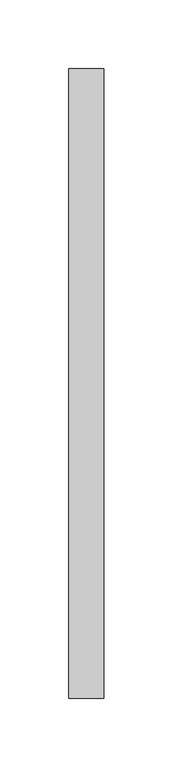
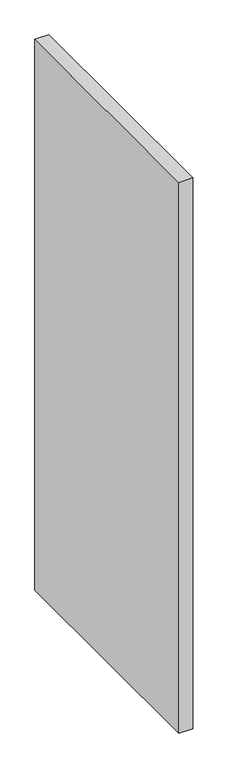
"""IFC4 building model written with IfcOpenShell, lengths in millimetres: proxy geometry."""

from ifc_helpers import new_model, si_unit, frame, origin, place, context, project, spatial, polyline, outline, extrude, source, transform, mapped, element, save


def specialty_equipment_0732ba0f(model_context):
    return source(origin(), model_context, "Body", "SweptSolid", [
        extrude(outline(polyline([(12.7, 171.45), (-12.7, 171.45), (-12.7, 628.65), (12.7, 628.65), (12.7, 171.45)])), frame((0.0, 0.0, 355.6), z_axis=(0.0, 0.0, 1.0), x_axis=(1.0, 0.0, 0.0)), (0.0, 0.0, 1.0), 1066.8),
    ])


if __name__ == "__main__":
    model = new_model("IFC4")
    model_context = context("Model", 3, world=origin())
    ifc_project = project(units=[si_unit("LENGTHUNIT", "METRE", prefix="MILLI")], contexts=[model_context])
    site = spatial("IfcSite", under=ifc_project)
    building = spatial("IfcBuilding", under=site)
    placement = place(None, origin())
    specialty_equipment_shape = specialty_equipment_0732ba0f(model_context)
    element("IfcBuildingElementProxy", 1, Name="Urinal Screen-3D w Urinal : 36\" O.C.", ObjectType="Urinal Screen-3D w Urinal : 36\" O.C.", at=placement, inside=building, context=model_context, shape_type="MappedRepresentation", body=[
        mapped(specialty_equipment_shape, transform((0.0, 0.0, 0.0), x_axis=(1.0, 0.0, 0.0), y_axis=(0.0, 1.0, 0.0), z_axis=(0.0, 0.0, 1.0))),
    ])
    save(model, "model.ifc")
